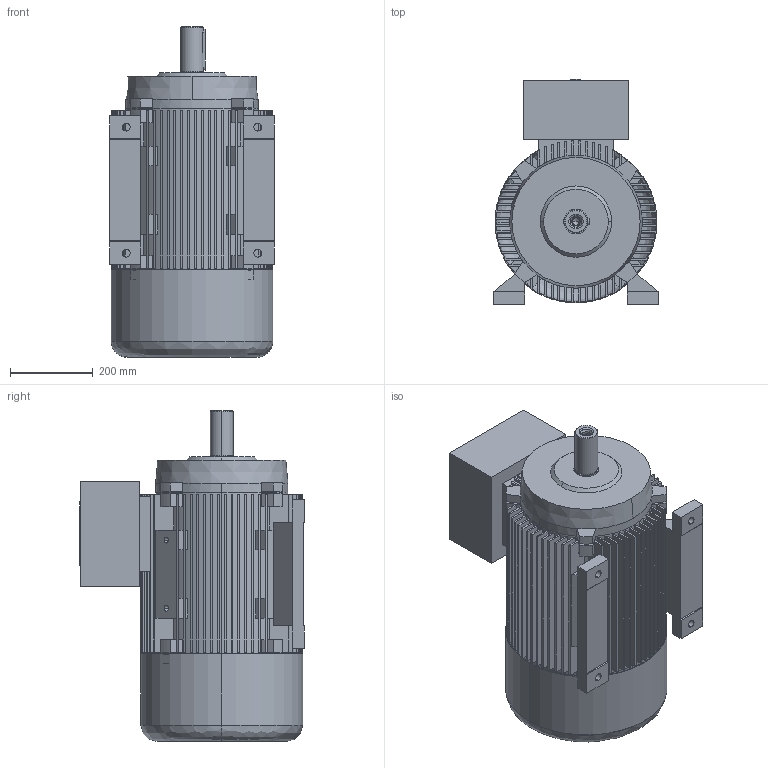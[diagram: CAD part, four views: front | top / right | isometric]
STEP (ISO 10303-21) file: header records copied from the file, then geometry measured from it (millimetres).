
FILE_DESCRIPTION (( 'STEP AP203' ), '1' );
FILE_NAME ('20.18424_A 7AT 200 B3 STANDK.STEP', '2018-04-24T11:24:57', ( '' ), ( '' ), 'SwSTEP 2.0', 'SolidWorks 2017', '' );
FILE_SCHEMA (( 'CONFIG_CONTROL_DESIGN' ));
Length unit declared in the file: millimetre
Products named in the file (1): 20.18424_A 7AT 200 B3 STANDK
Bounding box: 398 x 544 x 800 mm (x, y, z)
Volume: 30933481.6 mm3; surface area: 4288034.3 mm2
Topology: 6 solids, 6 shells, 792 faces, 2139 edges, 1401 vertices
Faces by surface type: plane 569, cylinder 172, cone 38, bspline 13
Entity records: 25503 total; most frequent: CARTESIAN_POINT 5148, ORIENTED_EDGE 4242, DIRECTION 4233, EDGE_CURVE 2121, LINE 1485, VECTOR 1485, VERTEX_POINT 1401, AXIS2_PLACEMENT_3D 1374
